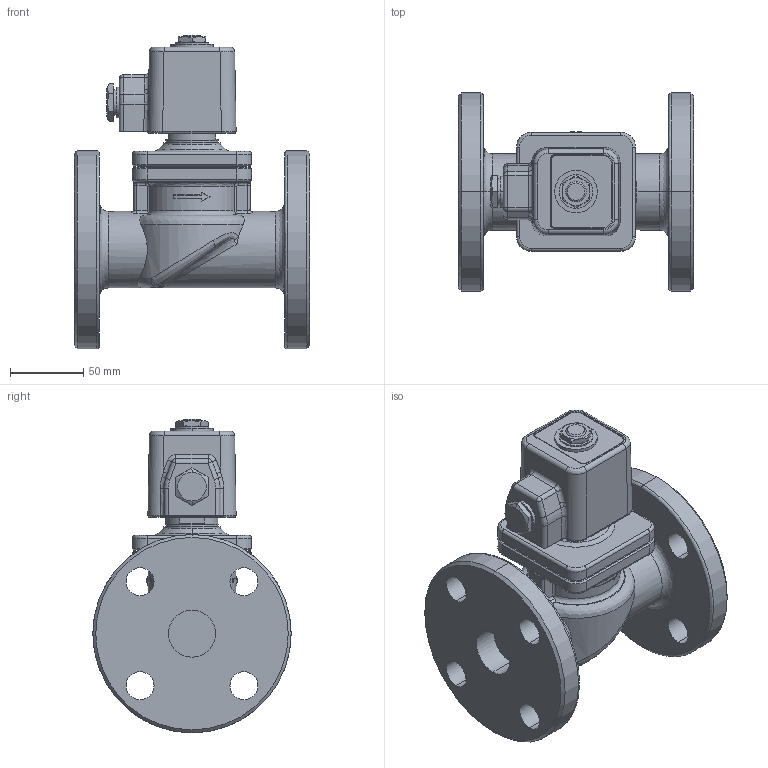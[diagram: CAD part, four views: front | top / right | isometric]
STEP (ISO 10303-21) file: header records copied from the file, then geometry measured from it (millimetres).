
FILE_DESCRIPTION( (''), '2;1');
FILE_NAME ('PC1027.7416.DP-100F　32A_29349.stp','2025-07-28T18:15:45',(''),(''),'spGate 19.8.4 (****-****-****-****)','','');
FILE_SCHEMA (('AUTOMOTIVE_DESIGN'));
Length unit declared in the file: millimetre
Products named in the file (6): Assembly; DP-100F 弁箱 32A; ふた 32A; パイプP 32-65A; コイルＰ 32-65A; プレートP 32-65A
Assembly tree (5 placements, depth 2):
  Assembly
    DP-100F 弁箱 32A
    ふた 32A
    パイプP 32-65A
    コイルＰ 32-65A
    プレートP 32-65A
Bounding box: 160 x 135 x 213.5 mm (x, y, z)
Volume: 1230692.9 mm3; surface area: 162898.9 mm2
Topology: 5 solids, 5 shells, 453 faces, 1057 edges, 619 vertices
Faces by surface type: bspline 172, cylinder 157, plane 112, sphere 12
Entity records: 27026 total; most frequent: CARTESIAN_POINT 9234, ORIENTED_EDGE 2074, DIRECTION 1700, COLOUR_RGB 1495, PRESENTATION_STYLE_ASSIGNMENT 1495, STYLED_ITEM 1495, EDGE_CURVE 1037, DRAUGHTING_PRE_DEFINED_CURVE_FONT 1037
